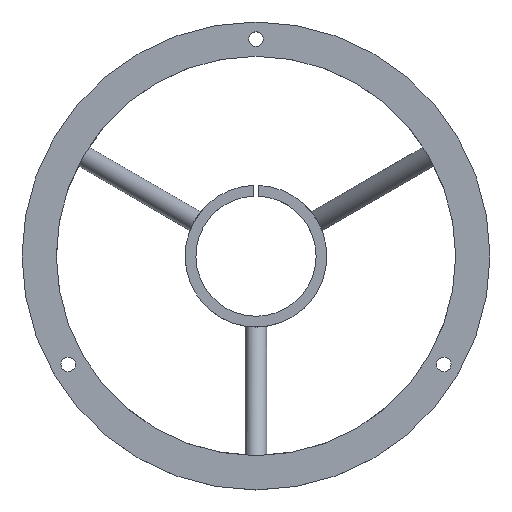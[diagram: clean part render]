
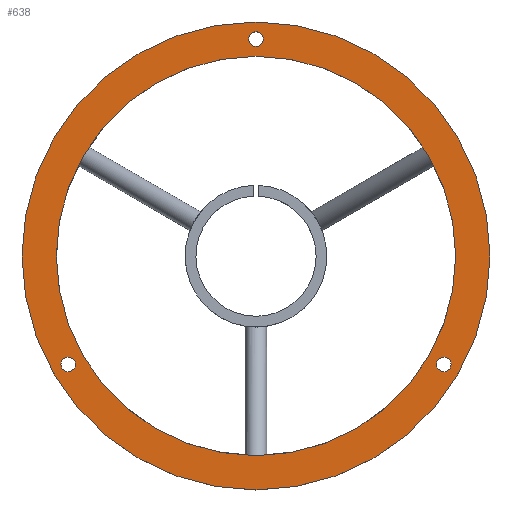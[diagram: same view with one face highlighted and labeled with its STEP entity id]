
A CAD part, top view. The second image highlights one B-rep face of the part: STEP entity #638.
In plain terms, the highlighted planar face has unit normal (0, 0, 1).
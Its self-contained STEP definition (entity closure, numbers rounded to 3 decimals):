
#24 = VERTEX_POINT('',#25);
#25 = CARTESIAN_POINT('',(54.5,0.,0.));
#32 = CYLINDRICAL_SURFACE('',#33,54.5);
#33 = AXIS2_PLACEMENT_3D('',#34,#35,#36);
#34 = CARTESIAN_POINT('',(0.,0.,-3.));
#35 = DIRECTION('',(-0.,-0.,-1.));
#36 = DIRECTION('',(1.,0.,0.));
#51 = EDGE_CURVE('',#24,#24,#52,.T.);
#52 = SURFACE_CURVE('',#53,(#58,#65),.PCURVE_S1.);
#53 = CIRCLE('',#54,54.5);
#54 = AXIS2_PLACEMENT_3D('',#55,#56,#57);
#55 = CARTESIAN_POINT('',(0.,0.,0.));
#56 = DIRECTION('',(0.,0.,1.));
#57 = DIRECTION('',(1.,0.,0.));
#58 = PCURVE('',#32,#59);
#59 = DEFINITIONAL_REPRESENTATION('',(#60),#64);
#60 = LINE('',#61,#62);
#61 = CARTESIAN_POINT('',(-0.,-3.));
#62 = VECTOR('',#63,1.);
#63 = DIRECTION('',(-1.,0.));
#64 = ( GEOMETRIC_REPRESENTATION_CONTEXT(2) 
PARAMETRIC_REPRESENTATION_CONTEXT() REPRESENTATION_CONTEXT('2D SPACE',''
  ) );
#65 = PCURVE('',#66,#71);
#66 = PLANE('',#67);
#67 = AXIS2_PLACEMENT_3D('',#68,#69,#70);
#68 = CARTESIAN_POINT('',(0.,0.,0.));
#69 = DIRECTION('',(0.,0.,1.));
#70 = DIRECTION('',(1.,0.,-0.));
#71 = DEFINITIONAL_REPRESENTATION('',(#72),#76);
#72 = CIRCLE('',#73,54.5);
#73 = AXIS2_PLACEMENT_2D('',#74,#75);
#74 = CARTESIAN_POINT('',(0.,0.));
#75 = DIRECTION('',(1.,0.));
#76 = ( GEOMETRIC_REPRESENTATION_CONTEXT(2) 
PARAMETRIC_REPRESENTATION_CONTEXT() REPRESENTATION_CONTEXT('2D SPACE',''
  ) );
#133 = CYLINDRICAL_SURFACE('',#134,1.7);
#134 = AXIS2_PLACEMENT_3D('',#135,#136,#137);
#135 = CARTESIAN_POINT('',(-43.734,-25.25,-4.));
#136 = DIRECTION('',(-0.,-0.,-1.));
#137 = DIRECTION('',(1.,0.,0.));
#166 = CYLINDRICAL_SURFACE('',#167,46.5);
#167 = AXIS2_PLACEMENT_3D('',#168,#169,#170);
#168 = CARTESIAN_POINT('',(0.,0.,-3.));
#169 = DIRECTION('',(-0.,-0.,-1.));
#170 = DIRECTION('',(1.,0.,0.));
#592 = CYLINDRICAL_SURFACE('',#593,1.7);
#593 = AXIS2_PLACEMENT_3D('',#594,#595,#596);
#594 = CARTESIAN_POINT('',(43.734,-25.25,-4.));
#595 = DIRECTION('',(-0.,-0.,-1.));
#596 = DIRECTION('',(1.,0.,0.));
#627 = CYLINDRICAL_SURFACE('',#628,1.7);
#628 = AXIS2_PLACEMENT_3D('',#629,#630,#631);
#629 = CARTESIAN_POINT('',(0.,50.5,-4.));
#630 = DIRECTION('',(-0.,-0.,-1.));
#631 = DIRECTION('',(1.,0.,0.));
#638 = ADVANCED_FACE('',(#639,#642,#672,#702,#728),#66,.T.);
#639 = FACE_BOUND('',#640,.T.);
#640 = EDGE_LOOP('',(#641));
#641 = ORIENTED_EDGE('',*,*,#51,.T.);
#642 = FACE_BOUND('',#643,.T.);
#643 = EDGE_LOOP('',(#644));
#644 = ORIENTED_EDGE('',*,*,#645,.T.);
#645 = EDGE_CURVE('',#646,#646,#648,.T.);
#646 = VERTEX_POINT('',#647);
#647 = CARTESIAN_POINT('',(-42.034,-25.25,0.));
#648 = SURFACE_CURVE('',#649,(#654,#665),.PCURVE_S1.);
#649 = CIRCLE('',#650,1.7);
#650 = AXIS2_PLACEMENT_3D('',#651,#652,#653);
#651 = CARTESIAN_POINT('',(-43.734,-25.25,0.));
#652 = DIRECTION('',(0.,0.,-1.));
#653 = DIRECTION('',(1.,0.,0.));
#654 = PCURVE('',#66,#655);
#655 = DEFINITIONAL_REPRESENTATION('',(#656),#664);
#656 = ( BOUNDED_CURVE() B_SPLINE_CURVE(2,(#657,#658,#659,#660,#661,#662
,#663),.UNSPECIFIED.,.T.,.F.) B_SPLINE_CURVE_WITH_KNOTS((1,2,2,2,2,1),(
    -2.094,0.,2.094,4.189,6.283,
8.378),.UNSPECIFIED.) CURVE() GEOMETRIC_REPRESENTATION_ITEM() 
RATIONAL_B_SPLINE_CURVE((1.,0.5,1.,0.5,1.,0.5,1.)) REPRESENTATION_ITEM(
  '') );
#657 = CARTESIAN_POINT('',(-42.034,-25.25));
#658 = CARTESIAN_POINT('',(-42.034,-28.194));
#659 = CARTESIAN_POINT('',(-44.584,-26.722));
#660 = CARTESIAN_POINT('',(-47.134,-25.25));
#661 = CARTESIAN_POINT('',(-44.584,-23.778));
#662 = CARTESIAN_POINT('',(-42.034,-22.306));
#663 = CARTESIAN_POINT('',(-42.034,-25.25));
#664 = ( GEOMETRIC_REPRESENTATION_CONTEXT(2) 
PARAMETRIC_REPRESENTATION_CONTEXT() REPRESENTATION_CONTEXT('2D SPACE',''
  ) );
#665 = PCURVE('',#133,#666);
#666 = DEFINITIONAL_REPRESENTATION('',(#667),#671);
#667 = LINE('',#668,#669);
#668 = CARTESIAN_POINT('',(-6.283,-4.));
#669 = VECTOR('',#670,1.);
#670 = DIRECTION('',(1.,-0.));
#671 = ( GEOMETRIC_REPRESENTATION_CONTEXT(2) 
PARAMETRIC_REPRESENTATION_CONTEXT() REPRESENTATION_CONTEXT('2D SPACE',''
  ) );
#672 = FACE_BOUND('',#673,.T.);
#673 = EDGE_LOOP('',(#674));
#674 = ORIENTED_EDGE('',*,*,#675,.T.);
#675 = EDGE_CURVE('',#676,#676,#678,.T.);
#676 = VERTEX_POINT('',#677);
#677 = CARTESIAN_POINT('',(45.434,-25.25,0.));
#678 = SURFACE_CURVE('',#679,(#684,#695),.PCURVE_S1.);
#679 = CIRCLE('',#680,1.7);
#680 = AXIS2_PLACEMENT_3D('',#681,#682,#683);
#681 = CARTESIAN_POINT('',(43.734,-25.25,0.));
#682 = DIRECTION('',(0.,0.,-1.));
#683 = DIRECTION('',(1.,0.,0.));
#684 = PCURVE('',#66,#685);
#685 = DEFINITIONAL_REPRESENTATION('',(#686),#694);
#686 = ( BOUNDED_CURVE() B_SPLINE_CURVE(2,(#687,#688,#689,#690,#691,#692
,#693),.UNSPECIFIED.,.T.,.F.) B_SPLINE_CURVE_WITH_KNOTS((1,2,2,2,2,1),(
    -2.094,0.,2.094,4.189,6.283,
8.378),.UNSPECIFIED.) CURVE() GEOMETRIC_REPRESENTATION_ITEM() 
RATIONAL_B_SPLINE_CURVE((1.,0.5,1.,0.5,1.,0.5,1.)) REPRESENTATION_ITEM(
  '') );
#687 = CARTESIAN_POINT('',(45.434,-25.25));
#688 = CARTESIAN_POINT('',(45.434,-28.194));
#689 = CARTESIAN_POINT('',(42.884,-26.722));
#690 = CARTESIAN_POINT('',(40.334,-25.25));
#691 = CARTESIAN_POINT('',(42.884,-23.778));
#692 = CARTESIAN_POINT('',(45.434,-22.306));
#693 = CARTESIAN_POINT('',(45.434,-25.25));
#694 = ( GEOMETRIC_REPRESENTATION_CONTEXT(2) 
PARAMETRIC_REPRESENTATION_CONTEXT() REPRESENTATION_CONTEXT('2D SPACE',''
  ) );
#695 = PCURVE('',#592,#696);
#696 = DEFINITIONAL_REPRESENTATION('',(#697),#701);
#697 = LINE('',#698,#699);
#698 = CARTESIAN_POINT('',(-6.283,-4.));
#699 = VECTOR('',#700,1.);
#700 = DIRECTION('',(1.,-0.));
#701 = ( GEOMETRIC_REPRESENTATION_CONTEXT(2) 
PARAMETRIC_REPRESENTATION_CONTEXT() REPRESENTATION_CONTEXT('2D SPACE',''
  ) );
#702 = FACE_BOUND('',#703,.T.);
#703 = EDGE_LOOP('',(#704));
#704 = ORIENTED_EDGE('',*,*,#705,.F.);
#705 = EDGE_CURVE('',#706,#706,#708,.T.);
#706 = VERTEX_POINT('',#707);
#707 = CARTESIAN_POINT('',(46.5,0.,0.));
#708 = SURFACE_CURVE('',#709,(#714,#721),.PCURVE_S1.);
#709 = CIRCLE('',#710,46.5);
#710 = AXIS2_PLACEMENT_3D('',#711,#712,#713);
#711 = CARTESIAN_POINT('',(0.,0.,0.));
#712 = DIRECTION('',(0.,0.,1.));
#713 = DIRECTION('',(1.,0.,0.));
#714 = PCURVE('',#66,#715);
#715 = DEFINITIONAL_REPRESENTATION('',(#716),#720);
#716 = CIRCLE('',#717,46.5);
#717 = AXIS2_PLACEMENT_2D('',#718,#719);
#718 = CARTESIAN_POINT('',(0.,0.));
#719 = DIRECTION('',(1.,0.));
#720 = ( GEOMETRIC_REPRESENTATION_CONTEXT(2) 
PARAMETRIC_REPRESENTATION_CONTEXT() REPRESENTATION_CONTEXT('2D SPACE',''
  ) );
#721 = PCURVE('',#166,#722);
#722 = DEFINITIONAL_REPRESENTATION('',(#723),#727);
#723 = LINE('',#724,#725);
#724 = CARTESIAN_POINT('',(-0.,-3.));
#725 = VECTOR('',#726,1.);
#726 = DIRECTION('',(-1.,0.));
#727 = ( GEOMETRIC_REPRESENTATION_CONTEXT(2) 
PARAMETRIC_REPRESENTATION_CONTEXT() REPRESENTATION_CONTEXT('2D SPACE',''
  ) );
#728 = FACE_BOUND('',#729,.T.);
#729 = EDGE_LOOP('',(#730));
#730 = ORIENTED_EDGE('',*,*,#731,.T.);
#731 = EDGE_CURVE('',#732,#732,#734,.T.);
#732 = VERTEX_POINT('',#733);
#733 = CARTESIAN_POINT('',(1.7,50.5,0.));
#734 = SURFACE_CURVE('',#735,(#740,#751),.PCURVE_S1.);
#735 = CIRCLE('',#736,1.7);
#736 = AXIS2_PLACEMENT_3D('',#737,#738,#739);
#737 = CARTESIAN_POINT('',(0.,50.5,0.));
#738 = DIRECTION('',(0.,0.,-1.));
#739 = DIRECTION('',(1.,0.,0.));
#740 = PCURVE('',#66,#741);
#741 = DEFINITIONAL_REPRESENTATION('',(#742),#750);
#742 = ( BOUNDED_CURVE() B_SPLINE_CURVE(2,(#743,#744,#745,#746,#747,#748
,#749),.UNSPECIFIED.,.T.,.F.) B_SPLINE_CURVE_WITH_KNOTS((1,2,2,2,2,1),(
    -2.094,0.,2.094,4.189,6.283,
8.378),.UNSPECIFIED.) CURVE() GEOMETRIC_REPRESENTATION_ITEM() 
RATIONAL_B_SPLINE_CURVE((1.,0.5,1.,0.5,1.,0.5,1.)) REPRESENTATION_ITEM(
  '') );
#743 = CARTESIAN_POINT('',(1.7,50.5));
#744 = CARTESIAN_POINT('',(1.7,47.556));
#745 = CARTESIAN_POINT('',(-0.85,49.028));
#746 = CARTESIAN_POINT('',(-3.4,50.5));
#747 = CARTESIAN_POINT('',(-0.85,51.972));
#748 = CARTESIAN_POINT('',(1.7,53.444));
#749 = CARTESIAN_POINT('',(1.7,50.5));
#750 = ( GEOMETRIC_REPRESENTATION_CONTEXT(2) 
PARAMETRIC_REPRESENTATION_CONTEXT() REPRESENTATION_CONTEXT('2D SPACE',''
  ) );
#751 = PCURVE('',#627,#752);
#752 = DEFINITIONAL_REPRESENTATION('',(#753),#757);
#753 = LINE('',#754,#755);
#754 = CARTESIAN_POINT('',(-6.283,-4.));
#755 = VECTOR('',#756,1.);
#756 = DIRECTION('',(1.,-0.));
#757 = ( GEOMETRIC_REPRESENTATION_CONTEXT(2) 
PARAMETRIC_REPRESENTATION_CONTEXT() REPRESENTATION_CONTEXT('2D SPACE',''
  ) );
